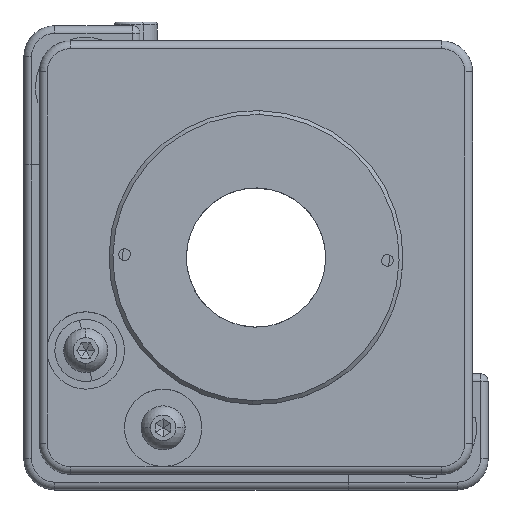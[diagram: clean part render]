
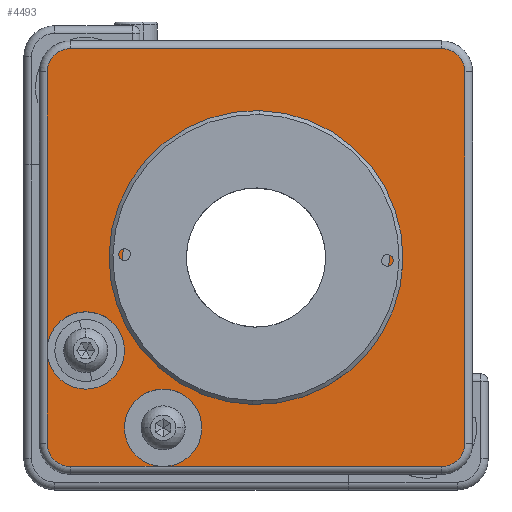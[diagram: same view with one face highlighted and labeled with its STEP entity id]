
A CAD part, top view. The second image highlights one B-rep face of the part: STEP entity #4493.
In plain terms, the highlighted planar face has unit normal (0, 0, 1).
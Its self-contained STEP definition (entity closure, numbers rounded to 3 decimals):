
#47 = DIRECTION ( 'NONE',  ( 1., 0., 0. ) ) ;
#80 = AXIS2_PLACEMENT_3D ( 'NONE', #3319, #3322, #3331 ) ;
#93 = CARTESIAN_POINT ( 'NONE',  ( 34.31, -30.329, 4. ) ) ;
#674 = VECTOR ( 'NONE', #10236, 1000. ) ;
#744 = DIRECTION ( 'NONE',  ( 0., 0., 1. ) ) ;
#784 = AXIS2_PLACEMENT_3D ( 'NONE', #11501, #5183, #10566 ) ;
#900 = VECTOR ( 'NONE', #2001, 1000. ) ;
#939 = DIRECTION ( 'NONE',  ( 0., 0., 1. ) ) ;
#954 = CIRCLE ( 'NONE', #80, 5. ) ;
#1004 = CARTESIAN_POINT ( 'NONE',  ( 34.31, 23.671, 4. ) ) ;
#1279 = ORIENTED_EDGE ( 'NONE', *, *, #4734, .T. ) ;
#1368 = ORIENTED_EDGE ( 'NONE', *, *, #8284, .T. ) ;
#1393 = CARTESIAN_POINT ( 'NONE',  ( 3.31, -25.329, 4. ) ) ;
#1463 = CARTESIAN_POINT ( 'NONE',  ( -16.69, -27.329, 4. ) ) ;
#1564 = LINE ( 'NONE', #1754, #6150 ) ;
#1711 = CARTESIAN_POINT ( 'NONE',  ( 34.31, 20.671, 4. ) ) ;
#1739 = DIRECTION ( 'NONE',  ( 1., 0., 0. ) ) ;
#1754 = CARTESIAN_POINT ( 'NONE',  ( 37.31, 20.671, 4. ) ) ;
#1780 = CARTESIAN_POINT ( 'NONE',  ( -17.69, -31.329, 4. ) ) ;
#1828 = VERTEX_POINT ( 'NONE', #10028 ) ;
#1881 = AXIS2_PLACEMENT_3D ( 'NONE', #3419, #939, #7581 ) ;
#1940 = CARTESIAN_POINT ( 'NONE',  ( -13.69, 23.671, 4. ) ) ;
#1963 = EDGE_CURVE ( 'NONE', #1828, #6552, #3931, .T. ) ;
#1984 = ORIENTED_EDGE ( 'NONE', *, *, #4811, .F. ) ;
#2001 = DIRECTION ( 'NONE',  ( 0., -1., 0. ) ) ;
#2014 = VECTOR ( 'NONE', #2431, 1000. ) ;
#2045 = VERTEX_POINT ( 'NONE', #1393 ) ;
#2156 = CARTESIAN_POINT ( 'NONE',  ( -16.69, -27.329, 4. ) ) ;
#2235 = CIRCLE ( 'NONE', #8347, 3. ) ;
#2376 = CARTESIAN_POINT ( 'NONE',  ( -1.69, -25.329, 4. ) ) ;
#2431 = DIRECTION ( 'NONE',  ( 0., -1., 0. ) ) ;
#2448 = VERTEX_POINT ( 'NONE', #2722 ) ;
#2472 = ORIENTED_EDGE ( 'NONE', *, *, #2859, .F. ) ;
#2502 = CARTESIAN_POINT ( 'NONE',  ( -13.69, 20.671, 4. ) ) ;
#2722 = CARTESIAN_POINT ( 'NONE',  ( -16.69, 20.671, 4. ) ) ;
#2859 = EDGE_CURVE ( 'NONE', #10415, #1828, #9999, .T. ) ;
#3125 = LINE ( 'NONE', #1940, #5292 ) ;
#3319 = CARTESIAN_POINT ( 'NONE',  ( -11.69, -15.329, 4. ) ) ;
#3322 = DIRECTION ( 'NONE',  ( 0., 0., 1. ) ) ;
#3331 = DIRECTION ( 'NONE',  ( 1., 0., 0. ) ) ;
#3369 = LINE ( 'NONE', #11311, #900 ) ;
#3419 = CARTESIAN_POINT ( 'NONE',  ( 10.31, -3.329, 4. ) ) ;
#3452 = EDGE_CURVE ( 'NONE', #1828, #2045, #9383, .T. ) ;
#3631 = EDGE_CURVE ( 'NONE', #4401, #7692, #954, .T. ) ;
#3926 = ORIENTED_EDGE ( 'NONE', *, *, #4144, .T. ) ;
#3931 = LINE ( 'NONE', #93, #8468 ) ;
#4059 = ORIENTED_EDGE ( 'NONE', *, *, #5419, .F. ) ;
#4102 = CARTESIAN_POINT ( 'NONE',  ( -11.69, -15.329, 4. ) ) ;
#4144 = EDGE_CURVE ( 'NONE', #8217, #1828, #7646, .T. ) ;
#4201 = VERTEX_POINT ( 'NONE', #10811 ) ;
#4401 = VERTEX_POINT ( 'NONE', #10972 ) ;
#4475 = DIRECTION ( 'NONE',  ( 1., 0., 0. ) ) ;
#4482 = CARTESIAN_POINT ( 'NONE',  ( -1.69, -25.329, 4. ) ) ;
#4490 = DIRECTION ( 'NONE',  ( 0., 0., 1. ) ) ;
#4493 = ADVANCED_FACE ( 'NONE', ( #11478, #6670 ), #11551, .T. ) ;
#4511 = DIRECTION ( 'NONE',  ( 0., 0., 1. ) ) ;
#4512 = ORIENTED_EDGE ( 'NONE', *, *, #3631, .F. ) ;
#4585 = EDGE_CURVE ( 'NONE', #9839, #8217, #5823, .T. ) ;
#4586 = ORIENTED_EDGE ( 'NONE', *, *, #8674, .T. ) ;
#4598 = DIRECTION ( 'NONE',  ( 0., 0., 1. ) ) ;
#4734 = EDGE_CURVE ( 'NONE', #6552, #9318, #2235, .T. ) ;
#4811 = EDGE_CURVE ( 'NONE', #6216, #10467, #10751, .T. ) ;
#5183 = DIRECTION ( 'NONE',  ( 0., 0., 1. ) ) ;
#5292 = VECTOR ( 'NONE', #8303, 1000. ) ;
#5419 = EDGE_CURVE ( 'NONE', #2045, #10415, #10329, .T. ) ;
#5496 = DIRECTION ( 'NONE',  ( 1., 0., 0. ) ) ;
#5717 = EDGE_CURVE ( 'NONE', #7692, #4401, #10464, .T. ) ;
#5718 = CARTESIAN_POINT ( 'NONE',  ( -16.69, -15.329, 4. ) ) ;
#5811 = EDGE_CURVE ( 'NONE', #10467, #6216, #11163, .T. ) ;
#5823 = CIRCLE ( 'NONE', #9800, 3. ) ;
#6024 = ORIENTED_EDGE ( 'NONE', *, *, #11493, .T. ) ;
#6026 = DIRECTION ( 'NONE',  ( 0., 0., 1. ) ) ;
#6030 = AXIS2_PLACEMENT_3D ( 'NONE', #2376, #6026, #11423 ) ;
#6150 = VECTOR ( 'NONE', #6550, 1000. ) ;
#6216 = VERTEX_POINT ( 'NONE', #10670 ) ;
#6292 = CARTESIAN_POINT ( 'NONE',  ( -6.69, -25.329, 4. ) ) ;
#6311 = AXIS2_PLACEMENT_3D ( 'NONE', #1711, #4511, #1739 ) ;
#6550 = DIRECTION ( 'NONE',  ( 0., 1., 0. ) ) ;
#6552 = VERTEX_POINT ( 'NONE', #8380 ) ;
#6670 = FACE_BOUND ( 'NONE', #9257, .T. ) ;
#6719 = CARTESIAN_POINT ( 'NONE',  ( 37.31, 20.671, 4. ) ) ;
#6721 = VERTEX_POINT ( 'NONE', #6719 ) ;
#6989 = DIRECTION ( 'NONE',  ( 1., 0., 0. ) ) ;
#7147 = CARTESIAN_POINT ( 'NONE',  ( 34.31, -27.329, 4. ) ) ;
#7156 = LINE ( 'NONE', #2156, #2014 ) ;
#7506 = EDGE_CURVE ( 'NONE', #6721, #8078, #9955, .T. ) ;
#7581 = DIRECTION ( 'NONE',  ( 1., 0., 0. ) ) ;
#7646 = LINE ( 'NONE', #10224, #674 ) ;
#7654 = CARTESIAN_POINT ( 'NONE',  ( -6.94, -3.329, 4. ) ) ;
#7685 = EDGE_CURVE ( 'NONE', #9318, #6721, #1564, .T. ) ;
#7692 = VERTEX_POINT ( 'NONE', #5718 ) ;
#7704 = AXIS2_PLACEMENT_3D ( 'NONE', #9843, #9851, #9863 ) ;
#7752 = CARTESIAN_POINT ( 'NONE',  ( -13.69, -27.329, 4. ) ) ;
#8011 = CARTESIAN_POINT ( 'NONE',  ( 37.31, -27.329, 4. ) ) ;
#8078 = VERTEX_POINT ( 'NONE', #1004 ) ;
#8217 = VERTEX_POINT ( 'NONE', #11561 ) ;
#8284 = EDGE_CURVE ( 'NONE', #8078, #4201, #3125, .T. ) ;
#8303 = DIRECTION ( 'NONE',  ( -1., 0., 0. ) ) ;
#8347 = AXIS2_PLACEMENT_3D ( 'NONE', #7147, #744, #11675 ) ;
#8380 = CARTESIAN_POINT ( 'NONE',  ( 34.31, -30.329, 4. ) ) ;
#8427 = ORIENTED_EDGE ( 'NONE', *, *, #3452, .F. ) ;
#8468 = VECTOR ( 'NONE', #47, 1000. ) ;
#8564 = AXIS2_PLACEMENT_3D ( 'NONE', #1780, #9816, #8894 ) ;
#8660 = ORIENTED_EDGE ( 'NONE', *, *, #4585, .T. ) ;
#8674 = EDGE_CURVE ( 'NONE', #4201, #2448, #11783, .T. ) ;
#8894 = DIRECTION ( 'NONE',  ( 1., 0., 0. ) ) ;
#9062 = ORIENTED_EDGE ( 'NONE', *, *, #5811, .F. ) ;
#9257 = EDGE_LOOP ( 'NONE', ( #1984, #9062 ) ) ;
#9318 = VERTEX_POINT ( 'NONE', #8011 ) ;
#9383 = CIRCLE ( 'NONE', #10910, 5. ) ;
#9386 = EDGE_LOOP ( 'NONE', ( #8660, #3926, #2472, #4059, #8427, #11044, #1279, #11378, #9771, #1368, #4586, #11080, #4512, #11498, #6024 ) ) ;
#9428 = AXIS2_PLACEMENT_3D ( 'NONE', #4102, #9520, #6989 ) ;
#9520 = DIRECTION ( 'NONE',  ( 0., 0., 1. ) ) ;
#9578 = DIRECTION ( 'NONE',  ( 0., 0., 1. ) ) ;
#9639 = AXIS2_PLACEMENT_3D ( 'NONE', #2502, #4598, #5496 ) ;
#9771 = ORIENTED_EDGE ( 'NONE', *, *, #7506, .T. ) ;
#9800 = AXIS2_PLACEMENT_3D ( 'NONE', #7752, #9578, #11398 ) ;
#9816 = DIRECTION ( 'NONE',  ( 0., 0., 1. ) ) ;
#9839 = VERTEX_POINT ( 'NONE', #1463 ) ;
#9843 = CARTESIAN_POINT ( 'NONE',  ( -1.69, -25.329, 4. ) ) ;
#9851 = DIRECTION ( 'NONE',  ( 0., 0., 1. ) ) ;
#9863 = DIRECTION ( 'NONE',  ( 1., 0., 0. ) ) ;
#9955 = CIRCLE ( 'NONE', #6311, 3. ) ;
#9999 = CIRCLE ( 'NONE', #7704, 5. ) ;
#10028 = CARTESIAN_POINT ( 'NONE',  ( -1.69, -30.329, 4. ) ) ;
#10224 = CARTESIAN_POINT ( 'NONE',  ( 34.31, -30.329, 4. ) ) ;
#10236 = DIRECTION ( 'NONE',  ( 1., 0., 0. ) ) ;
#10244 = EDGE_CURVE ( 'NONE', #2448, #7692, #3369, .T. ) ;
#10329 = CIRCLE ( 'NONE', #6030, 5. ) ;
#10415 = VERTEX_POINT ( 'NONE', #6292 ) ;
#10464 = CIRCLE ( 'NONE', #9428, 5. ) ;
#10467 = VERTEX_POINT ( 'NONE', #7654 ) ;
#10566 = DIRECTION ( 'NONE',  ( 1., 0., 0. ) ) ;
#10670 = CARTESIAN_POINT ( 'NONE',  ( 27.56, -3.329, 4. ) ) ;
#10751 = CIRCLE ( 'NONE', #784, 17.25 ) ;
#10811 = CARTESIAN_POINT ( 'NONE',  ( -13.69, 23.671, 4. ) ) ;
#10910 = AXIS2_PLACEMENT_3D ( 'NONE', #4482, #4490, #4475 ) ;
#10972 = CARTESIAN_POINT ( 'NONE',  ( -6.69, -15.329, 4. ) ) ;
#11044 = ORIENTED_EDGE ( 'NONE', *, *, #1963, .T. ) ;
#11080 = ORIENTED_EDGE ( 'NONE', *, *, #10244, .T. ) ;
#11163 = CIRCLE ( 'NONE', #1881, 17.25 ) ;
#11311 = CARTESIAN_POINT ( 'NONE',  ( -16.69, -27.329, 4. ) ) ;
#11378 = ORIENTED_EDGE ( 'NONE', *, *, #7685, .T. ) ;
#11398 = DIRECTION ( 'NONE',  ( 1., 0., 0. ) ) ;
#11423 = DIRECTION ( 'NONE',  ( 1., 0., 0. ) ) ;
#11478 = FACE_OUTER_BOUND ( 'NONE', #9386, .T. ) ;
#11493 = EDGE_CURVE ( 'NONE', #7692, #9839, #7156, .T. ) ;
#11498 = ORIENTED_EDGE ( 'NONE', *, *, #5717, .F. ) ;
#11501 = CARTESIAN_POINT ( 'NONE',  ( 10.31, -3.329, 4. ) ) ;
#11551 = PLANE ( 'NONE',  #8564 ) ;
#11561 = CARTESIAN_POINT ( 'NONE',  ( -13.69, -30.329, 4. ) ) ;
#11675 = DIRECTION ( 'NONE',  ( 1., 0., 0. ) ) ;
#11783 = CIRCLE ( 'NONE', #9639, 3. ) ;
